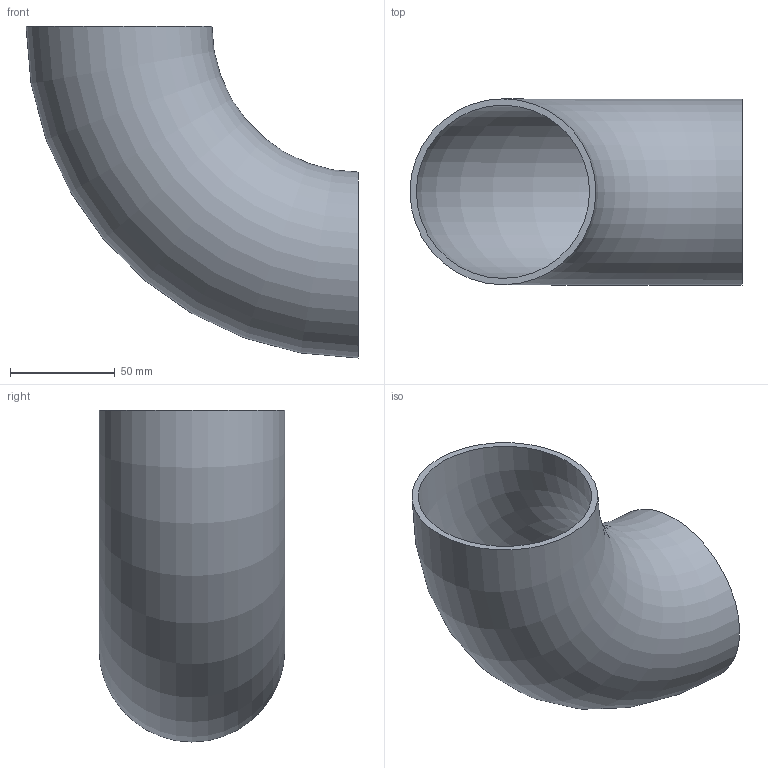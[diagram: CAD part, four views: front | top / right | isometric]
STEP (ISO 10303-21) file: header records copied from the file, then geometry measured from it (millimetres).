
FILE_DESCRIPTION(('Open CASCADE Model'),'2;1');
FILE_NAME('Open CASCADE Shape Model','2026-09-07T11:14:07',('Author'),( 'Open CASCADE'),'Open CASCADE STEP processor 7.9','Open CASCADE 7.9' ,'Unknown');
FILE_SCHEMA(('AUTOMOTIVE_DESIGN { 1 0 10303 214 1 1 1 1 }'));
Length unit declared in the file: millimetre
Products named in the file (1): Open CASCADE STEP translator 7.9 16
Bounding box: 158.75 x 88.9 x 158.75 mm (x, y, z)
Volume: 147691.7 mm3; surface area: 98492.2 mm2
Topology: 1 solids, 1 shells, 4 faces, 6 edges, 4 vertices
Faces by surface type: torus 2, plane 2
Entity records: 188 total; most frequent: DIRECTION 34, CARTESIAN_POINT 27, ORIENTED_EDGE 12, PCURVE 12, DEFINITIONAL_REPRESENTATION 12, AXIS2_PLACEMENT_3D 11, CIRCLE 10, LINE 8
